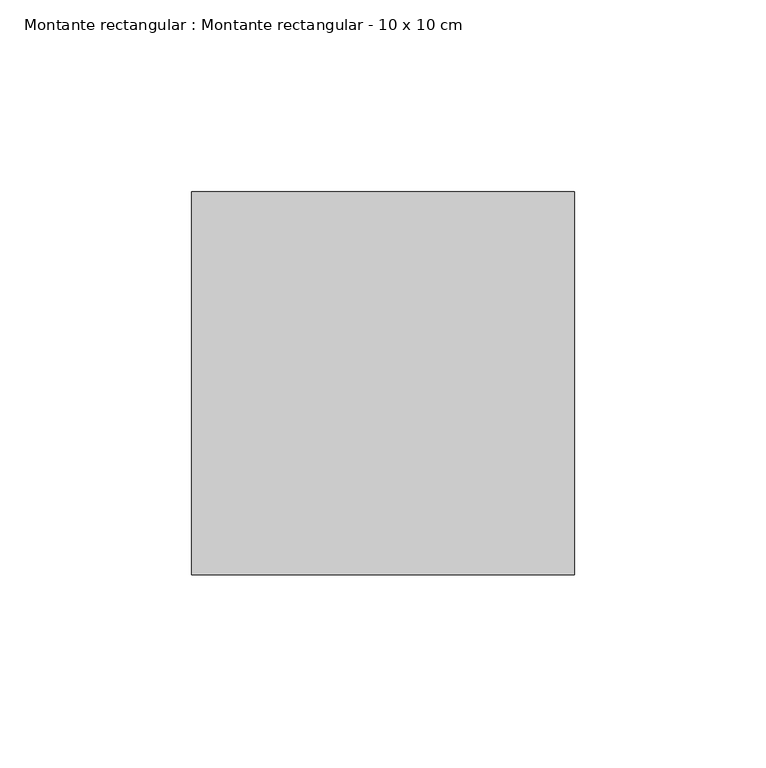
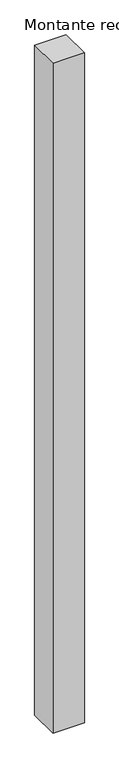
"""IFC4 building model written with IfcOpenShell, lengths in millimetres: member geometry, Montante rectangular : Montante rectangular - 10 x 10 cm."""

from ifc_helpers import new_model, si_unit, frame, origin, place, context, project, spatial, polyline, outline, extrude, source, transform, mapped, element, save


def montante_rectangular_montante_rectangular_10_x_10_cm_1208ad8d(model_context):
    return source(origin(), model_context, "Body", "SweptSolid", [
        extrude(outline(polyline([(0.0, 50.0), (0.0, -50.0), (-100.0, -50.0), (-100.0, 50.0), (0.0, 50.0)])), frame((0.0, 0.0, -2250.0), z_axis=(0.0, 0.0, 1.0), x_axis=(1.0, 0.0, 0.0)), (0.0, 0.0, 1.0), 2250.0),
    ])


if __name__ == "__main__":
    model = new_model("IFC4")
    model_context = context("Model", 3, world=origin())
    ifc_project = project(units=[si_unit("LENGTHUNIT", "METRE", prefix="MILLI")], contexts=[model_context])
    site = spatial("IfcSite", under=ifc_project)
    building = spatial("IfcBuilding", under=site)
    placement = place(None, origin())
    montante_rectangular_montante_rectangular_10_x_10_cm_shape = montante_rectangular_montante_rectangular_10_x_10_cm_1208ad8d(model_context)
    element("IfcMember", 1, ObjectType="Montante rectangular : Montante rectangular - 10 x 10 cm", at=placement, inside=building, context=model_context, shape_type="MappedRepresentation", body=[
        mapped(montante_rectangular_montante_rectangular_10_x_10_cm_shape, transform((0.0, 0.0, 0.0), x_axis=(1.0, 0.0, 0.0), y_axis=(0.0, 1.0, 0.0), z_axis=(0.0, 0.0, 1.0))),
    ])
    save(model, "model.ifc")
